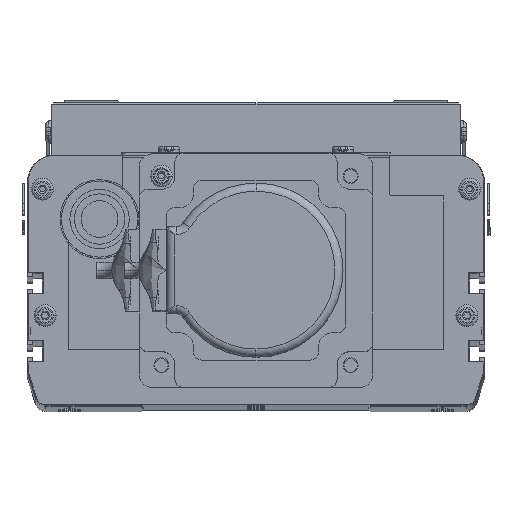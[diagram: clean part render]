
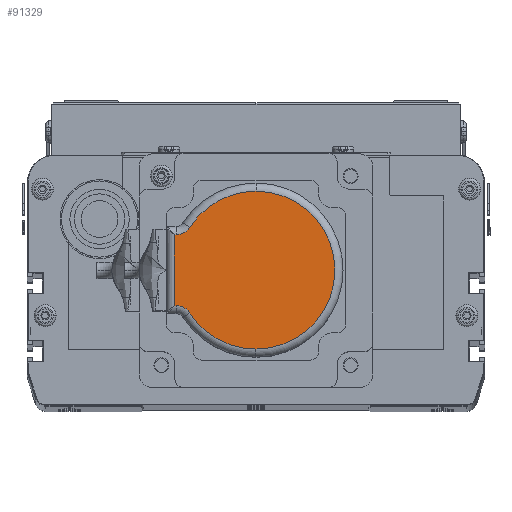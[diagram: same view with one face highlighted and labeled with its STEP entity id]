
A CAD part, top view. The second image highlights one B-rep face of the part: STEP entity #91329.
In plain terms, the highlighted planar face has unit normal (0, 0, 1).
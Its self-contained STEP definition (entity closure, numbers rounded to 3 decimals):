
#90967 = VERTEX_POINT ( 'NONE', #91894 ) ;
#91237 = VERTEX_POINT ( 'NONE', #92518 ) ;
#91289 = VERTEX_POINT ( 'NONE', #92838 ) ;
#91291 = EDGE_CURVE ( 'NONE', #91289, #91237, #92980, .T. ) ;
#91304 = ORIENTED_EDGE ( 'NONE', *, *, #91306, .T. ) ;
#91306 = EDGE_CURVE ( 'NONE', #90967, #91310, #92921, .T. ) ;
#91307 = EDGE_CURVE ( 'NONE', #91315, #91310, #92969, .T. ) ;
#91310 = VERTEX_POINT ( 'NONE', #92909 ) ;
#91312 = EDGE_CURVE ( 'NONE', #91289, #91333, #92874, .T. ) ;
#91313 = ORIENTED_EDGE ( 'NONE', *, *, #91291, .T. ) ;
#91315 = VERTEX_POINT ( 'NONE', #92871 ) ;
#91329 = ADVANCED_FACE ( 'NONE', ( #92795 ), #93331, .T. ) ;
#91331 = ORIENTED_EDGE ( 'NONE', *, *, #91312, .F. ) ;
#91332 = VERTEX_POINT ( 'NONE', #93289 ) ;
#91333 = VERTEX_POINT ( 'NONE', #93379 ) ;
#91414 = EDGE_CURVE ( 'NONE', #91237, #90967, #93189, .T. ) ;
#91605 = ORIENTED_EDGE ( 'NONE', *, *, #91307, .F. ) ;
#91614 = EDGE_CURVE ( 'NONE', #91688, #91333, #93651, .T. ) ;
#91617 = EDGE_LOOP ( 'NONE', ( #91331, #91313, #91718, #91304, #91605, #91663, #91719, #91796 ) ) ;
#91663 = ORIENTED_EDGE ( 'NONE', *, *, #91692, .T. ) ;
#91665 = EDGE_CURVE ( 'NONE', #91332, #91688, #93992, .T. ) ;
#91688 = VERTEX_POINT ( 'NONE', #94392 ) ;
#91692 = EDGE_CURVE ( 'NONE', #91315, #91332, #94396, .T. ) ;
#91718 = ORIENTED_EDGE ( 'NONE', *, *, #91414, .T. ) ;
#91719 = ORIENTED_EDGE ( 'NONE', *, *, #91665, .T. ) ;
#91796 = ORIENTED_EDGE ( 'NONE', *, *, #91614, .T. ) ;
#91894 = CARTESIAN_POINT ( 'NONE',  ( 62., 33., 26. ) ) ;
#92518 = CARTESIAN_POINT ( 'NONE',  ( 4., 33., 26. ) ) ;
#92795 = FACE_OUTER_BOUND ( 'NONE', #91617, .T. ) ;
#92837 = AXIS2_PLACEMENT_3D ( 'NONE', #92968, #92967, #92965 ) ;
#92838 = CARTESIAN_POINT ( 'NONE',  ( 17.257, 57.355, 26. ) ) ;
#92869 = DIRECTION ( 'NONE',  ( 1., 0., 0. ) ) ;
#92871 = CARTESIAN_POINT ( 'NONE',  ( 46., 62.394, 26. ) ) ;
#92874 = CIRCLE ( 'NONE', #92879, 6. ) ;
#92876 = DIRECTION ( 'NONE',  ( 1., 0., 0. ) ) ;
#92877 = DIRECTION ( 'NONE',  ( 0., 0., 1. ) ) ;
#92878 = CARTESIAN_POINT ( 'NONE',  ( 52., 62.394, 26. ) ) ;
#92879 = AXIS2_PLACEMENT_3D ( 'NONE', #92908, #92928, #92869 ) ;
#92906 = DIRECTION ( 'NONE',  ( 1., 0., 0. ) ) ;
#92907 = DIRECTION ( 'NONE',  ( 0., 0., 1. ) ) ;
#92908 = CARTESIAN_POINT ( 'NONE',  ( 14., 62.394, 26. ) ) ;
#92909 = CARTESIAN_POINT ( 'NONE',  ( 48.743, 57.355, 26. ) ) ;
#92910 = AXIS2_PLACEMENT_3D ( 'NONE', #92878, #92877, #92876 ) ;
#92911 = AXIS2_PLACEMENT_3D ( 'NONE', #92931, #92907, #92906 ) ;
#92921 = CIRCLE ( 'NONE', #92911, 29. ) ;
#92928 = DIRECTION ( 'NONE',  ( 0., 0., 1. ) ) ;
#92931 = CARTESIAN_POINT ( 'NONE',  ( 33., 33., 26. ) ) ;
#92965 = DIRECTION ( 'NONE',  ( 1., 0., 0. ) ) ;
#92967 = DIRECTION ( 'NONE',  ( 0., 0., 1. ) ) ;
#92968 = CARTESIAN_POINT ( 'NONE',  ( 33., 33., 26. ) ) ;
#92969 = CIRCLE ( 'NONE', #92910, 6. ) ;
#92980 = CIRCLE ( 'NONE', #92837, 29. ) ;
#93189 = CIRCLE ( 'NONE', #93355, 29. ) ;
#93249 = CARTESIAN_POINT ( 'NONE',  ( 33., 33., 26. ) ) ;
#93280 = CARTESIAN_POINT ( 'NONE',  ( 33., 33., 26. ) ) ;
#93281 = DIRECTION ( 'NONE',  ( 0., 0., 1. ) ) ;
#93289 = CARTESIAN_POINT ( 'NONE',  ( 46., 63., 26. ) ) ;
#93306 = DIRECTION ( 'NONE',  ( 1., 0., 0. ) ) ;
#93331 = PLANE ( 'NONE',  #93377 ) ;
#93352 = DIRECTION ( 'NONE',  ( 1., 0., 0. ) ) ;
#93353 = DIRECTION ( 'NONE',  ( 0., 0., 1. ) ) ;
#93355 = AXIS2_PLACEMENT_3D ( 'NONE', #93280, #93353, #93352 ) ;
#93377 = AXIS2_PLACEMENT_3D ( 'NONE', #93249, #93281, #93306 ) ;
#93379 = CARTESIAN_POINT ( 'NONE',  ( 20., 62.394, 26. ) ) ;
#93642 = DIRECTION ( 'NONE',  ( 0., -1., 0. ) ) ;
#93647 = VECTOR ( 'NONE', #93642, 1000. ) ;
#93649 = CARTESIAN_POINT ( 'NONE',  ( 20., 33., 26. ) ) ;
#93651 = LINE ( 'NONE', #93649, #93647 ) ;
#93988 = DIRECTION ( 'NONE',  ( -1., 0., 0. ) ) ;
#93990 = VECTOR ( 'NONE', #93988, 1000. ) ;
#93991 = CARTESIAN_POINT ( 'NONE',  ( 17.5, 63., 26. ) ) ;
#93992 = LINE ( 'NONE', #93991, #93990 ) ;
#94392 = CARTESIAN_POINT ( 'NONE',  ( 20., 63., 26. ) ) ;
#94394 = CARTESIAN_POINT ( 'NONE',  ( 46., 33., 26. ) ) ;
#94396 = LINE ( 'NONE', #94394, #94406 ) ;
#94405 = DIRECTION ( 'NONE',  ( 0., 1., 0. ) ) ;
#94406 = VECTOR ( 'NONE', #94405, 1000. ) ;
